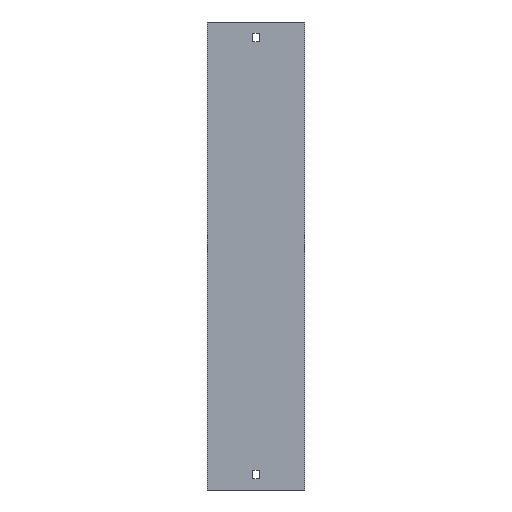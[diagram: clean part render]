
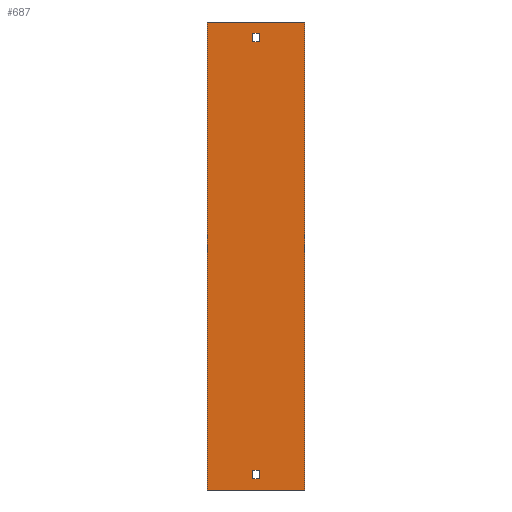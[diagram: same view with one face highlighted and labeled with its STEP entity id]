
A CAD part, front view. The second image highlights one B-rep face of the part: STEP entity #687.
In plain terms, the highlighted planar face has unit normal (0, -1, 0).
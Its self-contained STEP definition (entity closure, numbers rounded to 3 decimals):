
#15 = EDGE_CURVE ( 'NONE', #1410, #1440, #500, .T. ) ;
#28 = LINE ( 'NONE', #54, #1022 ) ;
#30 = LINE ( 'NONE', #278, #1501 ) ;
#43 = VERTEX_POINT ( 'NONE', #867 ) ;
#50 = ORIENTED_EDGE ( 'NONE', *, *, #277, .T. ) ;
#54 = CARTESIAN_POINT ( 'NONE',  ( -3.25, 0., 229. ) ) ;
#87 = VERTEX_POINT ( 'NONE', #126 ) ;
#100 = VECTOR ( 'NONE', #1670, 1000. ) ;
#126 = CARTESIAN_POINT ( 'NONE',  ( 3.25, 0., -229. ) ) ;
#137 = CARTESIAN_POINT ( 'NONE',  ( -52., 0., 250. ) ) ;
#152 = LINE ( 'NONE', #1051, #643 ) ;
#155 = ORIENTED_EDGE ( 'NONE', *, *, #711, .F. ) ;
#182 = CARTESIAN_POINT ( 'NONE',  ( 3.25, 0., 238. ) ) ;
#185 = EDGE_CURVE ( 'NONE', #1440, #87, #152, .T. ) ;
#188 = DIRECTION ( 'NONE',  ( 0., 0., -1. ) ) ;
#211 = LINE ( 'NONE', #1129, #1101 ) ;
#217 = CARTESIAN_POINT ( 'NONE',  ( -52., 0., 250. ) ) ;
#269 = LINE ( 'NONE', #1292, #964 ) ;
#277 = EDGE_CURVE ( 'NONE', #87, #1334, #30, .T. ) ;
#278 = CARTESIAN_POINT ( 'NONE',  ( 3.25, 0., -238. ) ) ;
#286 = VECTOR ( 'NONE', #784, 1000. ) ;
#310 = FACE_OUTER_BOUND ( 'NONE', #660, .T. ) ;
#313 = VERTEX_POINT ( 'NONE', #1216 ) ;
#322 = LINE ( 'NONE', #716, #1283 ) ;
#327 = ORIENTED_EDGE ( 'NONE', *, *, #460, .F. ) ;
#339 = DIRECTION ( 'NONE',  ( 1., 0., 0. ) ) ;
#353 = ORIENTED_EDGE ( 'NONE', *, *, #1465, .F. ) ;
#459 = ORIENTED_EDGE ( 'NONE', *, *, #1320, .T. ) ;
#460 = EDGE_CURVE ( 'NONE', #313, #1560, #269, .T. ) ;
#461 = VERTEX_POINT ( 'NONE', #1021 ) ;
#476 = VERTEX_POINT ( 'NONE', #642 ) ;
#492 = VERTEX_POINT ( 'NONE', #1544 ) ;
#499 = LINE ( 'NONE', #507, #100 ) ;
#500 = LINE ( 'NONE', #1375, #1019 ) ;
#507 = CARTESIAN_POINT ( 'NONE',  ( 52., 0., 250. ) ) ;
#578 = ORIENTED_EDGE ( 'NONE', *, *, #719, .F. ) ;
#613 = LINE ( 'NONE', #1117, #1133 ) ;
#622 = CARTESIAN_POINT ( 'NONE',  ( -3.25, 0., 238. ) ) ;
#641 = VERTEX_POINT ( 'NONE', #1441 ) ;
#642 = CARTESIAN_POINT ( 'NONE',  ( -52., 0., -250. ) ) ;
#643 = VECTOR ( 'NONE', #1317, 1000. ) ;
#651 = LINE ( 'NONE', #1029, #286 ) ;
#660 = EDGE_LOOP ( 'NONE', ( #459, #1565, #578, #1000 ) ) ;
#661 = FACE_BOUND ( 'NONE', #1131, .T. ) ;
#687 = ADVANCED_FACE ( 'NONE', ( #310, #661, #1297 ), #1198, .F. ) ;
#711 = EDGE_CURVE ( 'NONE', #641, #313, #28, .T. ) ;
#716 = CARTESIAN_POINT ( 'NONE',  ( -3.25, 0., -238. ) ) ;
#719 = EDGE_CURVE ( 'NONE', #492, #461, #1358, .T. ) ;
#757 = AXIS2_PLACEMENT_3D ( 'NONE', #137, #1179, #1433 ) ;
#784 = DIRECTION ( 'NONE',  ( -1., 0., 0. ) ) ;
#811 = EDGE_CURVE ( 'NONE', #1334, #1410, #322, .T. ) ;
#844 = CARTESIAN_POINT ( 'NONE',  ( -52., 0., 250. ) ) ;
#853 = ORIENTED_EDGE ( 'NONE', *, *, #811, .T. ) ;
#866 = DIRECTION ( 'NONE',  ( 1., 0., 0. ) ) ;
#867 = CARTESIAN_POINT ( 'NONE',  ( 52., 0., -250. ) ) ;
#873 = CARTESIAN_POINT ( 'NONE',  ( -3.25, 0., -238. ) ) ;
#961 = LINE ( 'NONE', #217, #1532 ) ;
#964 = VECTOR ( 'NONE', #1278, 1000. ) ;
#966 = VECTOR ( 'NONE', #339, 1000. ) ;
#969 = EDGE_LOOP ( 'NONE', ( #1460, #1171, #50, #853 ) ) ;
#979 = EDGE_CURVE ( 'NONE', #1418, #641, #211, .T. ) ;
#1000 = ORIENTED_EDGE ( 'NONE', *, *, #1385, .T. ) ;
#1019 = VECTOR ( 'NONE', #1629, 1000. ) ;
#1021 = CARTESIAN_POINT ( 'NONE',  ( 52., 0., 250. ) ) ;
#1022 = VECTOR ( 'NONE', #1247, 1000. ) ;
#1029 = CARTESIAN_POINT ( 'NONE',  ( -3.25, 0., 238. ) ) ;
#1051 = CARTESIAN_POINT ( 'NONE',  ( -3.25, 0., -229. ) ) ;
#1075 = ORIENTED_EDGE ( 'NONE', *, *, #979, .F. ) ;
#1101 = VECTOR ( 'NONE', #1383, 1000. ) ;
#1117 = CARTESIAN_POINT ( 'NONE',  ( -52., 0., -250. ) ) ;
#1129 = CARTESIAN_POINT ( 'NONE',  ( -3.25, 0., 238. ) ) ;
#1131 = EDGE_LOOP ( 'NONE', ( #155, #1075, #353, #327 ) ) ;
#1133 = VECTOR ( 'NONE', #866, 1000. ) ;
#1171 = ORIENTED_EDGE ( 'NONE', *, *, #185, .T. ) ;
#1179 = DIRECTION ( 'NONE',  ( 0., 1., 0. ) ) ;
#1198 = PLANE ( 'NONE',  #757 ) ;
#1216 = CARTESIAN_POINT ( 'NONE',  ( 3.25, 0., 229. ) ) ;
#1221 = DIRECTION ( 'NONE',  ( -1., 0., 0. ) ) ;
#1243 = CARTESIAN_POINT ( 'NONE',  ( 3.25, 0., -238. ) ) ;
#1247 = DIRECTION ( 'NONE',  ( 1., 0., 0. ) ) ;
#1278 = DIRECTION ( 'NONE',  ( 0., 0., 1. ) ) ;
#1283 = VECTOR ( 'NONE', #1221, 1000. ) ;
#1292 = CARTESIAN_POINT ( 'NONE',  ( 3.25, 0., 238. ) ) ;
#1297 = FACE_BOUND ( 'NONE', #969, .T. ) ;
#1317 = DIRECTION ( 'NONE',  ( 1., 0., 0. ) ) ;
#1320 = EDGE_CURVE ( 'NONE', #476, #43, #613, .T. ) ;
#1334 = VERTEX_POINT ( 'NONE', #1243 ) ;
#1358 = LINE ( 'NONE', #844, #966 ) ;
#1375 = CARTESIAN_POINT ( 'NONE',  ( -3.25, 0., -238. ) ) ;
#1383 = DIRECTION ( 'NONE',  ( 0., 0., -1. ) ) ;
#1385 = EDGE_CURVE ( 'NONE', #492, #476, #961, .T. ) ;
#1410 = VERTEX_POINT ( 'NONE', #873 ) ;
#1418 = VERTEX_POINT ( 'NONE', #622 ) ;
#1433 = DIRECTION ( 'NONE',  ( -1., 0., 0. ) ) ;
#1440 = VERTEX_POINT ( 'NONE', #1525 ) ;
#1441 = CARTESIAN_POINT ( 'NONE',  ( -3.25, 0., 229. ) ) ;
#1460 = ORIENTED_EDGE ( 'NONE', *, *, #15, .T. ) ;
#1465 = EDGE_CURVE ( 'NONE', #1560, #1418, #651, .T. ) ;
#1489 = EDGE_CURVE ( 'NONE', #461, #43, #499, .T. ) ;
#1501 = VECTOR ( 'NONE', #1599, 1000. ) ;
#1525 = CARTESIAN_POINT ( 'NONE',  ( -3.25, 0., -229. ) ) ;
#1532 = VECTOR ( 'NONE', #188, 1000. ) ;
#1544 = CARTESIAN_POINT ( 'NONE',  ( -52., 0., 250. ) ) ;
#1560 = VERTEX_POINT ( 'NONE', #182 ) ;
#1565 = ORIENTED_EDGE ( 'NONE', *, *, #1489, .F. ) ;
#1599 = DIRECTION ( 'NONE',  ( 0., 0., -1. ) ) ;
#1629 = DIRECTION ( 'NONE',  ( 0., 0., 1. ) ) ;
#1670 = DIRECTION ( 'NONE',  ( 0., 0., -1. ) ) ;
